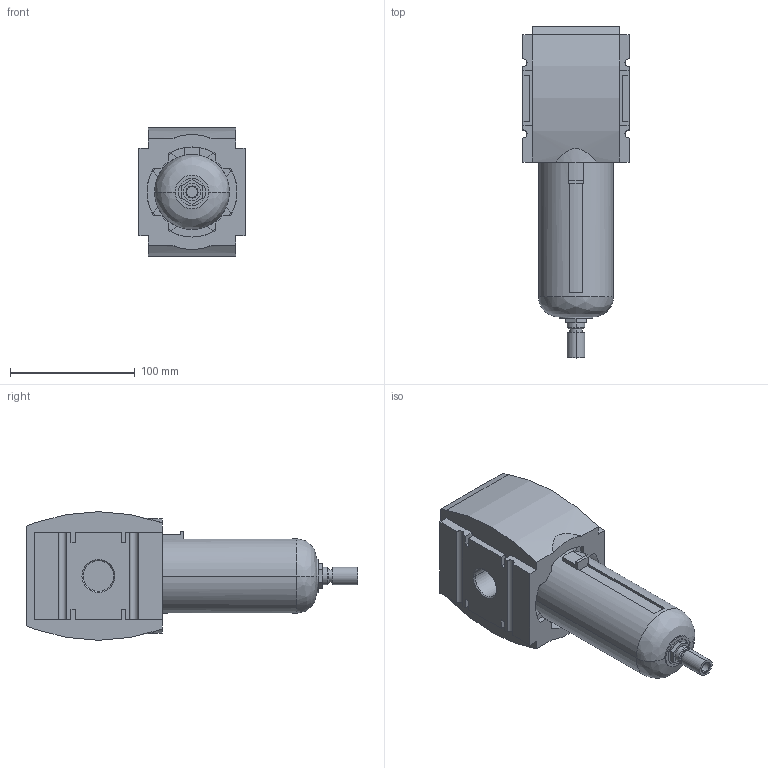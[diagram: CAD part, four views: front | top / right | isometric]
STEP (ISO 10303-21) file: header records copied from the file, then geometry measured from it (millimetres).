
FILE_DESCRIPTION((''),'2;1');
FILE_NAME('R412009038_ASM','2019-08-27T',('PDH2HC'),(''),'CREO PARAMETRIC BY PTC INC, 2016260','CREO PARAMETRIC BY PTC INC, 2016260','');
FILE_SCHEMA(('CONFIG_CONTROL_DESIGN'));
Length unit declared in the file: millimetre
Products named in the file (3): R412009038; AS5_RES_FILTER-FULLY; R412009038_ASM
Assembly tree (2 placements, depth 2):
  R412009038_ASM
    R412009038
    AS5_RES_FILTER-FULLY
Bounding box: 85 x 265.9 x 103 mm (x, y, z)
Volume: 1130722.4 mm3; surface area: 105008.5 mm2
Topology: 2 solids, 2 shells, 183 faces, 468 edges, 308 vertices
Faces by surface type: plane 129, cylinder 44, cone 8, bspline 2
Entity records: 5767 total; most frequent: CARTESIAN_POINT 1106, DIRECTION 966, ORIENTED_EDGE 936, EDGE_CURVE 468, VECTOR 338, LINE 338, AXIS2_PLACEMENT_3D 314, VERTEX_POINT 308
